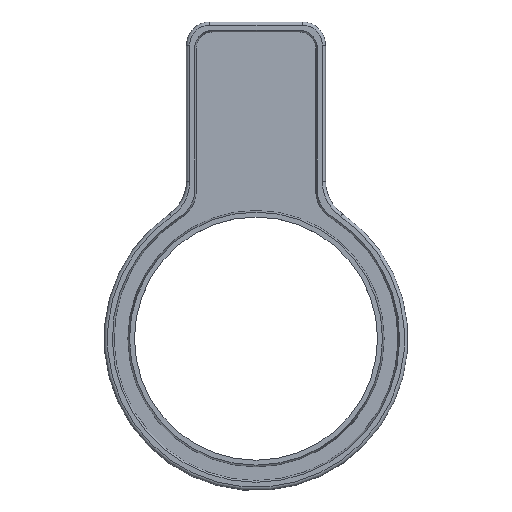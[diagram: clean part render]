
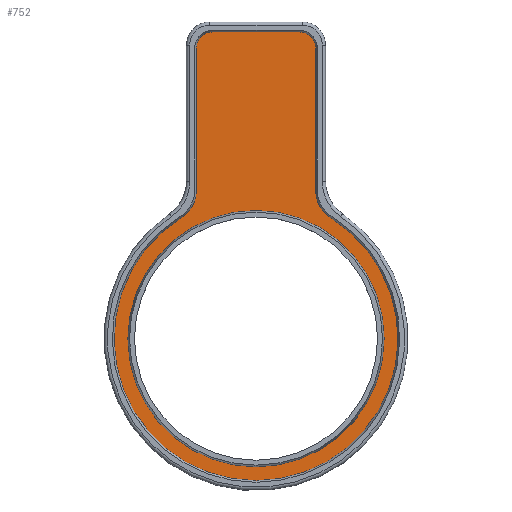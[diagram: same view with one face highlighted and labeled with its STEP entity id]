
A CAD part, top view. The second image highlights one B-rep face of the part: STEP entity #752.
In plain terms, the highlighted planar face has unit normal (0, 0, 1).
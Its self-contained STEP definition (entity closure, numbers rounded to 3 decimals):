
#38=FACE_BOUND('',#149,.T.);
#52=PLANE('',#860);
#97=FACE_OUTER_BOUND('',#148,.T.);
#148=EDGE_LOOP('',(#669,#670,#671,#672,#673,#674,#675,#676));
#149=EDGE_LOOP('',(#677));
#204=LINE('',#1314,#261);
#207=LINE('',#1322,#264);
#208=LINE('',#1330,#265);
#261=VECTOR('',#1090,10.);
#264=VECTOR('',#1099,10.);
#265=VECTOR('',#1108,10.);
#307=CIRCLE('',#839,38.9);
#313=CIRCLE('',#855,5.);
#314=CIRCLE('',#858,5.);
#315=CIRCLE('',#861,10.);
#316=CIRCLE('',#862,43.1);
#317=CIRCLE('',#863,10.);
#363=VERTEX_POINT('',#1269);
#372=VERTEX_POINT('',#1306);
#373=VERTEX_POINT('',#1308);
#374=VERTEX_POINT('',#1312);
#375=VERTEX_POINT('',#1316);
#376=VERTEX_POINT('',#1320);
#377=VERTEX_POINT('',#1324);
#378=VERTEX_POINT('',#1326);
#379=VERTEX_POINT('',#1328);
#453=EDGE_CURVE('',#363,#363,#307,.T.);
#471=EDGE_CURVE('',#373,#372,#313,.T.);
#474=EDGE_CURVE('',#372,#374,#204,.F.);
#476=EDGE_CURVE('',#374,#375,#314,.T.);
#478=EDGE_CURVE('',#375,#376,#207,.F.);
#479=EDGE_CURVE('',#377,#376,#315,.F.);
#480=EDGE_CURVE('',#377,#378,#316,.F.);
#481=EDGE_CURVE('',#379,#378,#317,.F.);
#482=EDGE_CURVE('',#379,#373,#208,.F.);
#669=ORIENTED_EDGE('',*,*,#476,.T.);
#670=ORIENTED_EDGE('',*,*,#478,.T.);
#671=ORIENTED_EDGE('',*,*,#479,.F.);
#672=ORIENTED_EDGE('',*,*,#480,.T.);
#673=ORIENTED_EDGE('',*,*,#481,.F.);
#674=ORIENTED_EDGE('',*,*,#482,.T.);
#675=ORIENTED_EDGE('',*,*,#471,.T.);
#676=ORIENTED_EDGE('',*,*,#474,.T.);
#677=ORIENTED_EDGE('',*,*,#453,.T.);
#752=ADVANCED_FACE('',(#97,#38),#52,.T.);
#839=AXIS2_PLACEMENT_3D('',#1271,#1040,#1041);
#855=AXIS2_PLACEMENT_3D('',#1309,#1084,#1085);
#858=AXIS2_PLACEMENT_3D('',#1318,#1094,#1095);
#860=AXIS2_PLACEMENT_3D('',#1323,#1100,#1101);
#861=AXIS2_PLACEMENT_3D('',#1325,#1102,#1103);
#862=AXIS2_PLACEMENT_3D('',#1327,#1104,#1105);
#863=AXIS2_PLACEMENT_3D('',#1329,#1106,#1107);
#1040=DIRECTION('center_axis',(0.,0.,-1.));
#1041=DIRECTION('ref_axis',(-1.,0.,0.));
#1084=DIRECTION('center_axis',(0.,0.,1.));
#1085=DIRECTION('ref_axis',(0.707,0.707,0.));
#1090=DIRECTION('',(1.,0.,0.));
#1094=DIRECTION('center_axis',(0.,0.,1.));
#1095=DIRECTION('ref_axis',(-0.707,0.707,0.));
#1099=DIRECTION('',(0.,1.,0.));
#1100=DIRECTION('center_axis',(0.,0.,1.));
#1101=DIRECTION('ref_axis',(1.,0.,0.));
#1102=DIRECTION('center_axis',(0.,0.,-1.));
#1103=DIRECTION('ref_axis',(0.874,-0.485,0.));
#1104=DIRECTION('center_axis',(0.,0.,-1.));
#1105=DIRECTION('ref_axis',(1.,0.,0.));
#1106=DIRECTION('center_axis',(0.,0.,-1.));
#1107=DIRECTION('ref_axis',(-0.874,-0.485,0.));
#1108=DIRECTION('',(0.,-1.,0.));
#1269=CARTESIAN_POINT('',(38.9,0.,3.));
#1271=CARTESIAN_POINT('Origin',(0.,0.,3.));
#1306=CARTESIAN_POINT('',(13.1,93.1,3.));
#1308=CARTESIAN_POINT('',(18.1,88.1,3.));
#1309=CARTESIAN_POINT('Origin',(13.1,88.1,3.));
#1312=CARTESIAN_POINT('',(-13.1,93.1,3.));
#1314=CARTESIAN_POINT('',(10.55,93.1,3.));
#1316=CARTESIAN_POINT('',(-18.1,88.1,3.));
#1318=CARTESIAN_POINT('Origin',(-13.1,88.1,3.));
#1320=CARTESIAN_POINT('',(-18.1,45.056,3.));
#1322=CARTESIAN_POINT('',(-18.1,60.55,3.));
#1323=CARTESIAN_POINT('Origin',(0.,25.,3.));
#1324=CARTESIAN_POINT('',(-22.808,36.57,3.));
#1325=CARTESIAN_POINT('Origin',(-28.1,45.056,3.));
#1326=CARTESIAN_POINT('',(22.808,36.57,3.));
#1327=CARTESIAN_POINT('Origin',(0.,0.,3.));
#1328=CARTESIAN_POINT('',(18.1,45.056,3.));
#1329=CARTESIAN_POINT('Origin',(28.1,45.056,3.));
#1330=CARTESIAN_POINT('',(18.1,32.994,3.));
